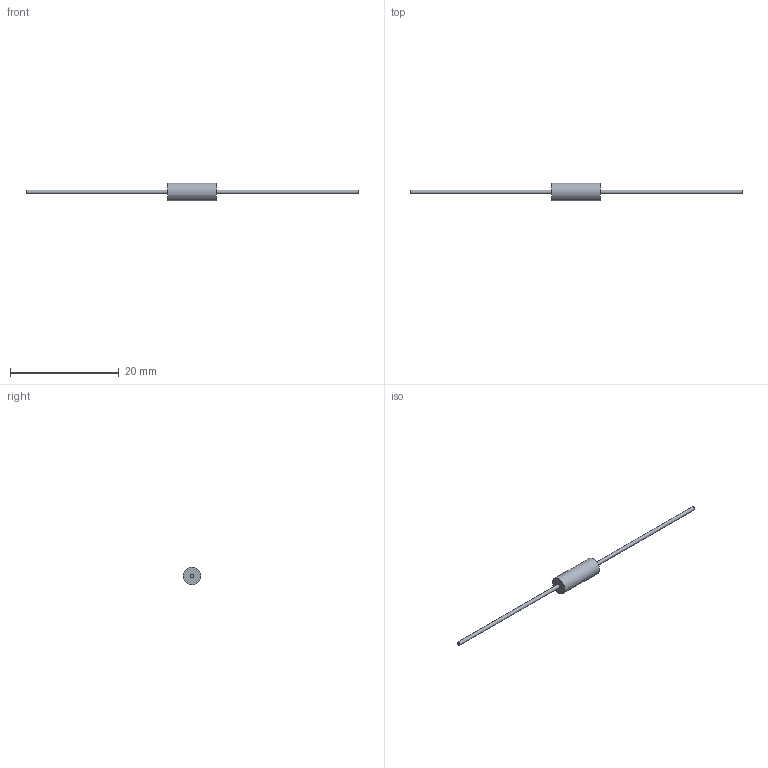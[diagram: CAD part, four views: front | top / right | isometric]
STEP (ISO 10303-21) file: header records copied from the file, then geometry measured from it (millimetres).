
FILE_DESCRIPTION(/* description */ (''),/* implementation_level */ '2;1');
FILE_NAME(/* name */ 'C:\Users\mulla\Documents\SEI Models\Inventor Files\CD\3D\CD12.stp',/* time_stamp */ '2019-06-10T12:45:41-04:00',/* author */ ('mulla'),/* organization */ (''),/* preprocessor_version */ 'ST-DEVELOPER v16.1',/* originating_system */ 'Autodesk Inventor 2016',/* authorisation */ '');
FILE_SCHEMA (('AUTOMOTIVE_DESIGN { 1 0 10303 214 3 1 1 }'));
Length unit declared in the file: millimetre
Products named in the file (1): CD12
Bounding box: 61 x 3.2 x 3.2 mm (x, y, z)
Volume: 89.6 mm3; surface area: 214.1 mm2
Topology: 3 solids, 3 shells, 9 faces, 9 edges, 6 vertices
Faces by surface type: plane 6, cylinder 3
Full cylindrical faces by diameter (mm): 0.65 x2, 3.2 x1
Entity records: 186 total; most frequent: DIRECTION 32, CARTESIAN_POINT 22, AXIS2_PLACEMENT_3D 16, EDGE_LOOP 12, ORIENTED_EDGE 12, FACE_OUTER_BOUND 9, ADVANCED_FACE 9, PLANE 6
